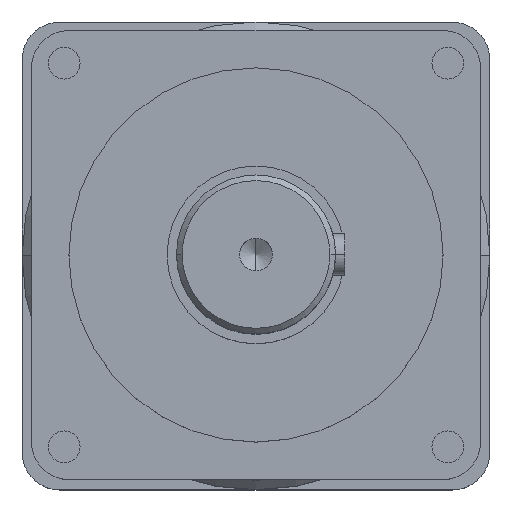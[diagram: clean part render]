
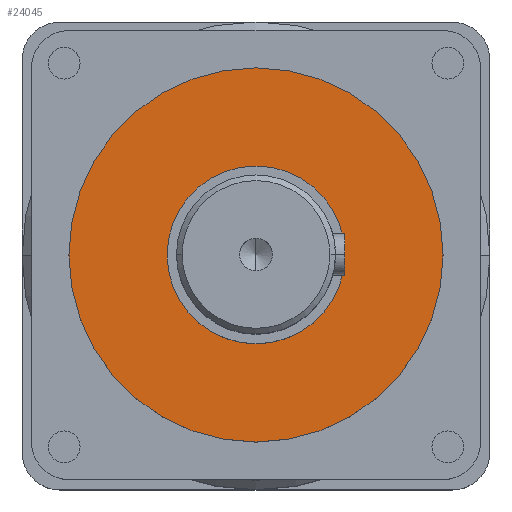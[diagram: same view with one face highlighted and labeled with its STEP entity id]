
A CAD part, top view. The second image highlights one B-rep face of the part: STEP entity #24045.
In plain terms, the highlighted planar face has unit normal (0, 0, 1).
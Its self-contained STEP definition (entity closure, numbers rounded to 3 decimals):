
#887 = CARTESIAN_POINT ( 'NONE',  ( 0., 0., 20. ) ) ;
#1161 = AXIS2_PLACEMENT_3D ( 'NONE', #887, #18215, #3430 ) ;
#1442 = DIRECTION ( 'NONE',  ( -1., 0., 0. ) ) ;
#2463 = FACE_BOUND ( 'NONE', #28800, .T. ) ;
#3430 = DIRECTION ( 'NONE',  ( -1., 0., 0. ) ) ;
#6264 = AXIS2_PLACEMENT_3D ( 'NONE', #13418, #30922, #15879 ) ;
#7296 = CARTESIAN_POINT ( 'NONE',  ( 0., 0., 20. ) ) ;
#7645 = CARTESIAN_POINT ( 'NONE',  ( -100., 0., 20. ) ) ;
#8340 = CIRCLE ( 'NONE', #1161, 47.5 ) ;
#8464 = EDGE_CURVE ( 'NONE', #28941, #29210, #22961, .T. ) ;
#8483 = VERTEX_POINT ( 'NONE', #7645 ) ;
#9571 = CARTESIAN_POINT ( 'NONE',  ( 100., 0., 20. ) ) ;
#9711 = DIRECTION ( 'NONE',  ( 0., 0., 1. ) ) ;
#10022 = CARTESIAN_POINT ( 'NONE',  ( 47.5, 0., 20. ) ) ;
#10917 = ORIENTED_EDGE ( 'NONE', *, *, #8464, .T. ) ;
#11712 = ORIENTED_EDGE ( 'NONE', *, *, #24887, .F. ) ;
#12306 = CARTESIAN_POINT ( 'NONE',  ( 0., 0., 20. ) ) ;
#13418 = CARTESIAN_POINT ( 'NONE',  ( 0., 0., 20. ) ) ;
#14775 = DIRECTION ( 'NONE',  ( -1., 0., 0. ) ) ;
#14814 = AXIS2_PLACEMENT_3D ( 'NONE', #7296, #9711, #27204 ) ;
#15879 = DIRECTION ( 'NONE',  ( -1., 0., 0. ) ) ;
#16258 = DIRECTION ( 'NONE',  ( 0., 0., -1. ) ) ;
#18215 = DIRECTION ( 'NONE',  ( 0., 0., -1. ) ) ;
#20722 = FACE_OUTER_BOUND ( 'NONE', #30658, .T. ) ;
#22035 = AXIS2_PLACEMENT_3D ( 'NONE', #31279, #16258, #1442 ) ;
#22143 = PLANE ( 'NONE',  #14814 ) ;
#22961 = CIRCLE ( 'NONE', #23584, 47.5 ) ;
#23584 = AXIS2_PLACEMENT_3D ( 'NONE', #12306, #29888, #14775 ) ;
#23593 = EDGE_CURVE ( 'NONE', #29210, #28941, #8340, .T. ) ;
#24045 = ADVANCED_FACE ( 'NONE', ( #2463, #20722 ), #22143, .T. ) ;
#24441 = EDGE_CURVE ( 'NONE', #8483, #24569, #29708, .T. ) ;
#24569 = VERTEX_POINT ( 'NONE', #9571 ) ;
#24887 = EDGE_CURVE ( 'NONE', #24569, #8483, #29682, .T. ) ;
#25855 = ORIENTED_EDGE ( 'NONE', *, *, #23593, .T. ) ;
#27204 = DIRECTION ( 'NONE',  ( 1., 0., 0. ) ) ;
#27983 = ORIENTED_EDGE ( 'NONE', *, *, #24441, .F. ) ;
#28337 = CARTESIAN_POINT ( 'NONE',  ( -47.5, 0., 20. ) ) ;
#28800 = EDGE_LOOP ( 'NONE', ( #25855, #10917 ) ) ;
#28941 = VERTEX_POINT ( 'NONE', #10022 ) ;
#29210 = VERTEX_POINT ( 'NONE', #28337 ) ;
#29682 = CIRCLE ( 'NONE', #6264, 100. ) ;
#29708 = CIRCLE ( 'NONE', #22035, 100. ) ;
#29888 = DIRECTION ( 'NONE',  ( 0., 0., -1. ) ) ;
#30658 = EDGE_LOOP ( 'NONE', ( #27983, #11712 ) ) ;
#30922 = DIRECTION ( 'NONE',  ( 0., 0., -1. ) ) ;
#31279 = CARTESIAN_POINT ( 'NONE',  ( 0., 0., 20. ) ) ;
